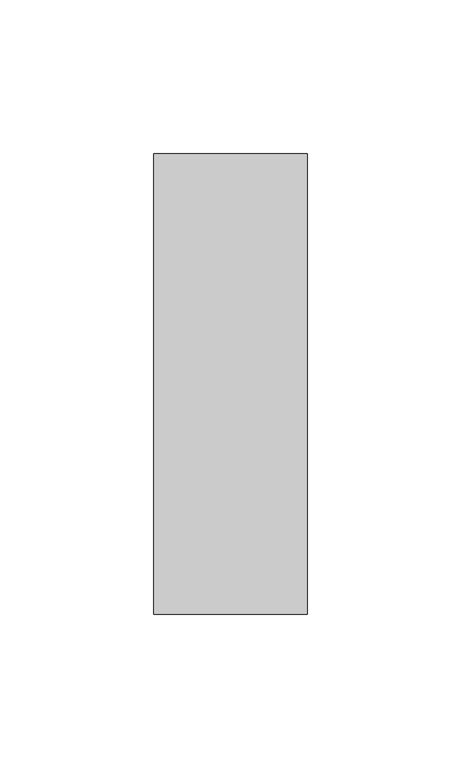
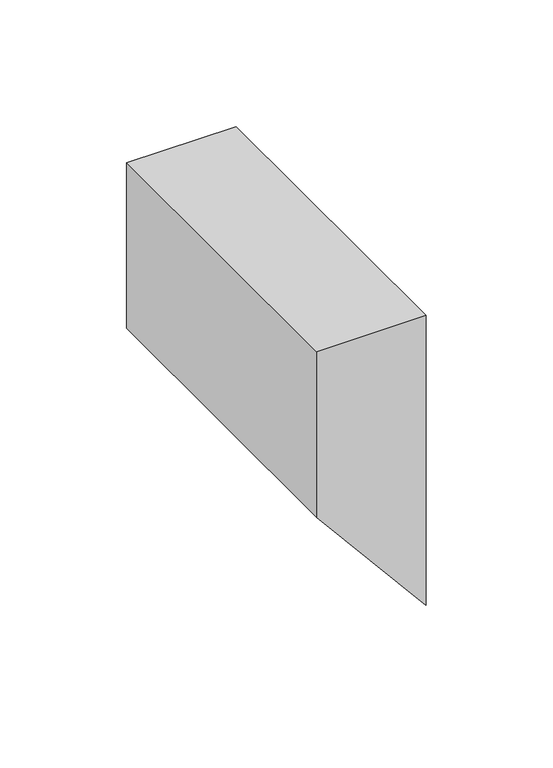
"""IFC4 building model written with IfcOpenShell, lengths in millimetres: member geometry, Прямоугольный импост : 50 x 150 мм."""

import ifcopenshell
import ifcopenshell.guid

model = None  # the IFC model being written
_history = None  # IfcOwnerHistory: only IFC2X3 demands one
_inside = {}  # id of a spatial element -> (the spatial element, [elements in it])
_under = {}  # id of a project, library or spatial element -> (it, [spatial elements below it])
_declared = {}  # id of a project -> (the project, [libraries it declares])
_typed = {}  # id of a type object -> (the type object, [elements of that type])
_made_of = {}  # id of a material, layer set ... -> (it, [elements and type objects made of it])


def new_model(schema):
    """Start an empty IFC model of exactly this schema.

    Asked for "IFC4X3", IfcOpenShell would pick the latest addendum, in which some entities
    have other attributes; the version numbers below select the first issue.
    IFC2X3 requires an IfcOwnerHistory on every rooted entity: one is made here for all.
    """
    global model, _history
    if schema == "IFC4X3":
        model = ifcopenshell.file(schema_version=(4, 3, 0, 0))
    else:
        model = ifcopenshell.file(schema=schema)
    _inside.clear()
    _under.clear()
    _declared.clear()
    _typed.clear()
    _made_of.clear()
    _history = None
    if model.schema == "IFC2X3":
        org = make("IfcOrganization", Name="unknown")
        user = make(
            "IfcPersonAndOrganization",
            ThePerson=make("IfcPerson", FamilyName="unknown"),
            TheOrganization=org,
        )
        app = make(
            "IfcApplication",
            ApplicationDeveloper=org,
            Version="unknown",
            ApplicationFullName="unknown",
            ApplicationIdentifier="unknown",
        )
        _history = make(
            "IfcOwnerHistory",
            OwningUser=user,
            OwningApplication=app,
            ChangeAction="ADDED",
            CreationDate=0,
        )
    return model


def make(cls, **values):
    """One entity of the class cls with the attributes given. An attribute that is None is left unset."""
    return model.create_entity(
        cls, **{name: value for name, value in values.items() if value is not None}
    )


def rooted(cls, **values):
    """An entity with a GlobalId (a new one), such as an element, a storey or a relation."""
    return make(cls, GlobalId=ifcopenshell.guid.new(), OwnerHistory=_history, **values)


def si_unit(unit_type, name, prefix=None):
    """IfcSIUnit, for example si_unit("LENGTHUNIT", "METRE", prefix="MILLI")."""
    return make("IfcSIUnit", UnitType=unit_type, Prefix=prefix, Name=name)


def assignment(units):
    """IfcUnitAssignment: the units of a project."""
    return None if units is None else make("IfcUnitAssignment", Units=units)


def point(xyz):
    """IfcCartesianPoint."""
    return None if xyz is None else make("IfcCartesianPoint", Coordinates=xyz)


def direction(xyz):
    """IfcDirection."""
    return None if xyz is None else make("IfcDirection", DirectionRatios=xyz)


def frame(location, z_axis=None, x_axis=None):
    """IfcAxis2Placement3D, a coordinate frame: its origin and axes. An axis left out is left unset."""
    return make(
        "IfcAxis2Placement3D",
        Location=point(location),
        Axis=direction(z_axis),
        RefDirection=direction(x_axis),
    )


def origin():
    """The frame at (0, 0, 0) with its axes left unset."""
    return frame((0.0, 0.0, 0.0))


def place(relative_to, where):
    """IfcLocalPlacement: puts the frame where relative to a parent placement (None: the world)."""
    return make(
        "IfcLocalPlacement", PlacementRelTo=relative_to, RelativePlacement=where
    )


def context(
    kind, dimensions, precision=None, world=None, true_north=None, identifier=None
):
    """IfcGeometricRepresentationContext, for example the 3D "Model" context."""
    return make(
        "IfcGeometricRepresentationContext",
        ContextIdentifier=identifier,
        ContextType=kind,
        CoordinateSpaceDimension=dimensions,
        Precision=precision,
        WorldCoordinateSystem=world,
        TrueNorth=true_north,
    )


def project(units=None, contexts=None):
    """IfcProject with its units and contexts."""
    return rooted(
        "IfcProject",
        Name="project",
        RepresentationContexts=contexts,
        UnitsInContext=assignment(units),
    )


def spatial(cls, under=None, at=None, **own):
    """A site, building, storey or space (cls), placed at a placement, below another one or the project."""
    s = rooted(cls, ObjectPlacement=at, **own)
    if under is not None:
        _under.setdefault(under.id(), (under, []))[1].append(s)
    return s


def polyline(points):
    """IfcPolyline through the points."""
    return make("IfcPolyline", Points=[point(p) for p in points])


def outline(outer, holes=None, kind="AREA"):
    """IfcArbitraryClosedProfileDef: a profile drawn as a closed curve; with holes, ...WithVoids."""
    if holes is None:
        return make("IfcArbitraryClosedProfileDef", ProfileType=kind, OuterCurve=outer)
    return make(
        "IfcArbitraryProfileDefWithVoids",
        ProfileType=kind,
        OuterCurve=outer,
        InnerCurves=holes,
    )


def extrude(swept, where, along, depth):
    """IfcExtrudedAreaSolid: the profile swept, set in the frame where, extruded along a direction by depth."""
    return make(
        "IfcExtrudedAreaSolid",
        SweptArea=swept,
        Position=where,
        ExtrudedDirection=direction(along),
        Depth=depth,
    )


def shape(context_of_items, identifier, shape_type, items):
    """IfcShapeRepresentation: the items that make up one representation, for example the "Body"."""
    return make(
        "IfcShapeRepresentation",
        ContextOfItems=context_of_items,
        RepresentationIdentifier=identifier,
        RepresentationType=shape_type,
        Items=items,
    )


def source(mapping_origin, context_of_items, identifier, shape_type, items):
    """IfcRepresentationMap: a shape defined once, which mapped items show again and again."""
    return make(
        "IfcRepresentationMap",
        MappingOrigin=mapping_origin,
        MappedRepresentation=shape(context_of_items, identifier, shape_type, items),
    )


def transform(
    local_origin,
    x_axis=None,
    y_axis=None,
    z_axis=None,
    scale=None,
    scale2=None,
    scale3=None,
    uniform=True,
):
    """IfcCartesianTransformationOperator3D, or its non-uniform kind. x_axis, y_axis, z_axis: its Axis1, 2, 3."""
    if uniform:
        return make(
            "IfcCartesianTransformationOperator3D",
            Axis1=direction(x_axis),
            Axis2=direction(y_axis),
            LocalOrigin=point(local_origin),
            Scale=scale,
            Axis3=direction(z_axis),
        )
    return make(
        "IfcCartesianTransformationOperator3DnonUniform",
        Axis1=direction(x_axis),
        Axis2=direction(y_axis),
        LocalOrigin=point(local_origin),
        Scale=scale,
        Axis3=direction(z_axis),
        Scale2=scale2,
        Scale3=scale3,
    )


def mapped(mapping_source, mapping_target):
    """IfcMappedItem: shows the shape of a source again, moved by a transform."""
    return make(
        "IfcMappedItem", MappingSource=mapping_source, MappingTarget=mapping_target
    )


def made_of(thing, what):
    """Note that an element or type object is made of a material, layer set ...; save() writes the relation."""
    if what is not None:
        _made_of.setdefault(what.id(), (what, []))[1].append(thing)
    return thing


def element(
    cls,
    number,
    at=None,
    inside=None,
    cuts=None,
    type_object=None,
    material=None,
    context=None,
    identifier="Body",
    shape_type=None,
    held_by="IfcProductDefinitionShape",
    body=None,
    shapes=None,
    **own,
):
    """One element of the class cls, such as IfcWall. Its Tag is "e" and its number.

    at: its placement. inside: the storey or other place that contains it. cuts: it is an
    opening in that element (IfcRelVoidsElement). A single representation is given by context,
    identifier, shape_type and body (its items); several are given by shapes. held_by: the class
    of the entity that holds the representations. save() writes the other relations.
    """
    e = rooted(cls, Tag="e%d" % number, ObjectPlacement=at, **own)
    if body is not None:
        shapes = [shape(context, identifier, shape_type, body)]
    if shapes is not None:
        e.Representation = make(held_by, Representations=shapes)
    if inside is not None:
        _inside.setdefault(inside.id(), (inside, []))[1].append(e)
    if cuts is not None:
        rooted(
            "IfcRelVoidsElement", RelatingBuildingElement=cuts, RelatedOpeningElement=e
        )
    if type_object is not None:
        _typed.setdefault(type_object.id(), (type_object, []))[1].append(e)
    return made_of(e, material)


def aggregate(whole, parts):
    """IfcRelAggregates: a whole, such as a stair, and the parts it consists of."""
    return rooted("IfcRelAggregates", RelatingObject=whole, RelatedObjects=parts)


def save(model, path):
    """Write the relations noted so far, then the file.

    IfcRelAggregates (storeys below a building ...), IfcRelContainedInSpatialStructure (elements
    in a storey), IfcRelDefinesByType, IfcRelAssociatesMaterial and IfcRelDeclares: one each for
    every whole, place, type object, material and project.
    """
    for whole, parts in _under.values():
        aggregate(whole, parts)
    for where, things in _inside.values():
        rooted(
            "IfcRelContainedInSpatialStructure",
            RelatedElements=things,
            RelatingStructure=where,
        )
    for kind, things in _typed.values():
        rooted("IfcRelDefinesByType", RelatedObjects=things, RelatingType=kind)
    for what, things in _made_of.values():
        rooted("IfcRelAssociatesMaterial", RelatedObjects=things, RelatingMaterial=what)
    for by, libraries in _declared.values():
        rooted("IfcRelDeclares", RelatingContext=by, RelatedDefinitions=libraries)
    model.write(path)


def member_00051abe(model_context):
    return source(origin(), model_context, "Body", "SweptSolid", [
        extrude(outline(polyline([(0.0, 25.0), (0.0, -25.0), (-79.6907263, -25.0), (-139.5354112, 25.0), (0.0, 25.0)])), frame((0.0, -75.0, 0.0), z_axis=(0.0, 1.0, 0.0), x_axis=(0.0, 0.0, 1.0)), (0.0, 0.0, 1.0), 150.0),
    ])


if __name__ == "__main__":
    model = new_model("IFC4")
    model_context = context("Model", 3, world=origin())
    ifc_project = project(units=[si_unit("LENGTHUNIT", "METRE", prefix="MILLI")], contexts=[model_context])
    site = spatial("IfcSite", under=ifc_project)
    building = spatial("IfcBuilding", under=site)
    placement = place(None, origin())
    member_shape = member_00051abe(model_context)
    element("IfcMember", 1, ObjectType="Прямоугольный импост : 50 x 150 мм", at=placement, inside=building, context=model_context, shape_type="MappedRepresentation", body=[
        mapped(member_shape, transform((0.0, 0.0, 0.0), x_axis=(1.0, 0.0, 0.0), y_axis=(0.0, 1.0, 0.0), z_axis=(0.0, 0.0, 1.0))),
    ])
    save(model, "model.ifc")
